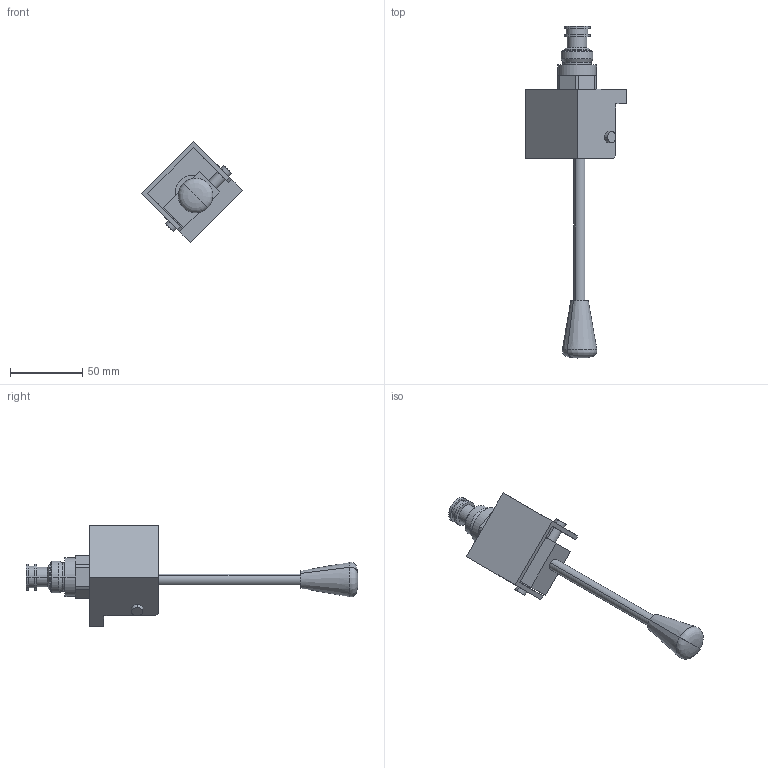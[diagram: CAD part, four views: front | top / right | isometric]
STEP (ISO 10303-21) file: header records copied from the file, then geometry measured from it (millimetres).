
FILE_DESCRIPTION((''),'2;1');
FILE_NAME('ROR3_062_3_159559_PRT','2022-11-24T13:26:59',('windchill'),(''),'CREO PARAMETRIC BY PTC INC, 2019444','CREO PARAMETRIC BY PTC INC, 2019444','');
FILE_SCHEMA(('AUTOMOTIVE_DESIGN { 1 0 10303 214 1 1 1 1 }'));
Length unit declared in the file: millimetre
Products named in the file (1): ROR3_062_3_159559_PRT
Bounding box: 70 x 230.03 x 70 mm (x, y, z)
Volume: 94878.4 mm3; surface area: 29934 mm2
Topology: 1 solids, 1 shells, 89 faces, 202 edges, 127 vertices
Faces by surface type: plane 43, cylinder 36, cone 8, revolution 2
Entity records: 3540 total; most frequent: CARTESIAN_POINT 471, DIRECTION 456, ORIENTED_EDGE 400, PRESENTATION_STYLE_ASSIGNMENT 208, STYLED_ITEM 203, CURVE_STYLE 202, EDGE_CURVE 200, AXIS2_PLACEMENT_3D 169
